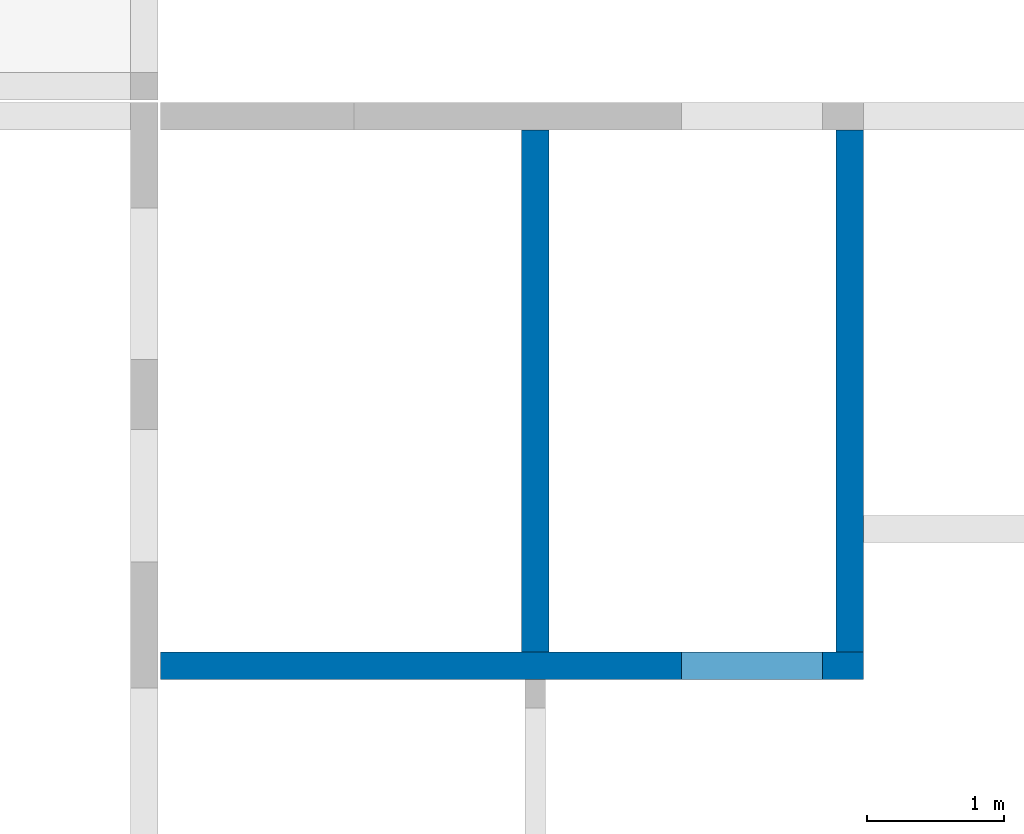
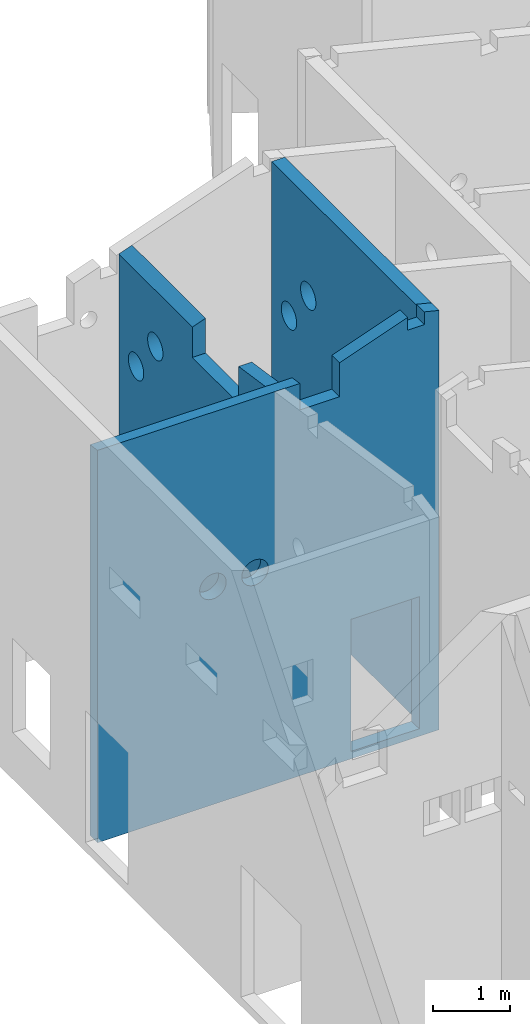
# One storey, part 8 of 13: 3 walls, 14 openings.
"""IFC2X3 building model written with IfcOpenShell, lengths in metres."""

import ifcopenshell
import ifcopenshell.guid

model = None  # the IFC model being written
_history = None  # IfcOwnerHistory: only IFC2X3 demands one
_inside = {}  # id of a spatial element -> (the spatial element, [elements in it])
_under = {}  # id of a project, library or spatial element -> (it, [spatial elements below it])
_declared = {}  # id of a project -> (the project, [libraries it declares])
_typed = {}  # id of a type object -> (the type object, [elements of that type])
_made_of = {}  # id of a material, layer set ... -> (it, [elements and type objects made of it])


def new_model(schema):
    """Start an empty IFC model of exactly this schema.

    Asked for "IFC4X3", IfcOpenShell would pick the latest addendum, in which some entities
    have other attributes; the version numbers below select the first issue.
    IFC2X3 requires an IfcOwnerHistory on every rooted entity: one is made here for all.
    """
    global model, _history
    if schema == "IFC4X3":
        model = ifcopenshell.file(schema_version=(4, 3, 0, 0))
    else:
        model = ifcopenshell.file(schema=schema)
    _inside.clear()
    _under.clear()
    _declared.clear()
    _typed.clear()
    _made_of.clear()
    _history = None
    if model.schema == "IFC2X3":
        org = make("IfcOrganization", Name="unknown")
        user = make(
            "IfcPersonAndOrganization",
            ThePerson=make("IfcPerson", FamilyName="unknown"),
            TheOrganization=org,
        )
        app = make(
            "IfcApplication",
            ApplicationDeveloper=org,
            Version="unknown",
            ApplicationFullName="unknown",
            ApplicationIdentifier="unknown",
        )
        _history = make(
            "IfcOwnerHistory",
            OwningUser=user,
            OwningApplication=app,
            ChangeAction="ADDED",
            CreationDate=0,
        )
    return model


def make(cls, **values):
    """One entity of the class cls with the attributes given. An attribute that is None is left unset."""
    return model.create_entity(
        cls, **{name: value for name, value in values.items() if value is not None}
    )


def entity(cls, *values):
    """Any entity or typed value of the class cls, its attributes in the order of the schema. None: left unset."""
    e = model.create_entity(cls)
    for i, value in enumerate(values):
        if value is not None:
            e[i] = value
    return e


def rooted(cls, **values):
    """An entity with a GlobalId (a new one), such as an element, a storey or a relation."""
    return make(cls, GlobalId=ifcopenshell.guid.new(), OwnerHistory=_history, **values)


def si_unit(unit_type, name, prefix=None):
    """IfcSIUnit, for example si_unit("LENGTHUNIT", "METRE", prefix="MILLI")."""
    return make("IfcSIUnit", UnitType=unit_type, Prefix=prefix, Name=name)


def converted_unit(unit_type, name, factor, base, dimensions=None, offset=None):
    """IfcConversionBasedUnit, such as the inch: factor (a typed value) times the base unit."""
    return make(
        "IfcConversionBasedUnit"
        if offset is None
        else "IfcConversionBasedUnitWithOffset",
        ConversionOffset=offset,
        Dimensions=None
        if dimensions is None
        else entity("IfcDimensionalExponents", *dimensions),
        UnitType=unit_type,
        Name=name,
        ConversionFactor=make(
            "IfcMeasureWithUnit", ValueComponent=factor, UnitComponent=base
        ),
    )


def assignment(units):
    """IfcUnitAssignment: the units of a project."""
    return None if units is None else make("IfcUnitAssignment", Units=units)


def point(xyz):
    """IfcCartesianPoint."""
    return None if xyz is None else make("IfcCartesianPoint", Coordinates=xyz)


def direction(xyz):
    """IfcDirection."""
    return None if xyz is None else make("IfcDirection", DirectionRatios=xyz)


def frame(location, z_axis=None, x_axis=None):
    """IfcAxis2Placement3D, a coordinate frame: its origin and axes. An axis left out is left unset."""
    return make(
        "IfcAxis2Placement3D",
        Location=point(location),
        Axis=direction(z_axis),
        RefDirection=direction(x_axis),
    )


def origin():
    """The frame at (0, 0, 0) with its axes left unset."""
    return frame((0.0, 0.0, 0.0))


def origin_with_axes():
    """The frame at (0, 0, 0) with the z axis (0, 0, 1) and the x axis (1, 0, 0) written out."""
    return frame((0.0, 0.0, 0.0), z_axis=(0.0, 0.0, 1.0), x_axis=(1.0, 0.0, 0.0))


def place(relative_to, where):
    """IfcLocalPlacement: puts the frame where relative to a parent placement (None: the world)."""
    return make(
        "IfcLocalPlacement", PlacementRelTo=relative_to, RelativePlacement=where
    )


def context(
    kind, dimensions, precision=None, world=None, true_north=None, identifier=None
):
    """IfcGeometricRepresentationContext, for example the 3D "Model" context."""
    return make(
        "IfcGeometricRepresentationContext",
        ContextIdentifier=identifier,
        ContextType=kind,
        CoordinateSpaceDimension=dimensions,
        Precision=precision,
        WorldCoordinateSystem=world,
        TrueNorth=true_north,
    )


def subcontext(parent, identifier, kind, view, scale=None):
    """IfcGeometricRepresentationSubContext, for example "Body" below "Model"."""
    return make(
        "IfcGeometricRepresentationSubContext",
        ContextIdentifier=identifier,
        ContextType=kind,
        ParentContext=parent,
        TargetScale=scale,
        TargetView=view,
    )


def project(units=None, contexts=None):
    """IfcProject with its units and contexts."""
    return rooted(
        "IfcProject",
        Name="project",
        RepresentationContexts=contexts,
        UnitsInContext=assignment(units),
    )


def spatial(cls, under=None, at=None, **own):
    """A site, building, storey or space (cls), placed at a placement, below another one or the project."""
    s = rooted(cls, ObjectPlacement=at, **own)
    if under is not None:
        _under.setdefault(under.id(), (under, []))[1].append(s)
    return s


def polyline(points):
    """IfcPolyline through the points."""
    return make("IfcPolyline", Points=[point(p) for p in points])


def outline(outer, holes=None, kind="AREA"):
    """IfcArbitraryClosedProfileDef: a profile drawn as a closed curve; with holes, ...WithVoids."""
    if holes is None:
        return make("IfcArbitraryClosedProfileDef", ProfileType=kind, OuterCurve=outer)
    return make(
        "IfcArbitraryProfileDefWithVoids",
        ProfileType=kind,
        OuterCurve=outer,
        InnerCurves=holes,
    )


def extrude(swept, where, along, depth):
    """IfcExtrudedAreaSolid: the profile swept, set in the frame where, extruded along a direction by depth."""
    return make(
        "IfcExtrudedAreaSolid",
        SweptArea=swept,
        Position=where,
        ExtrudedDirection=direction(along),
        Depth=depth,
    )


def clip(a, b, op="DIFFERENCE"):
    """IfcBooleanClippingResult: the solid a cut by the half space b."""
    return make(
        "IfcBooleanClippingResult", Operator=op, FirstOperand=a, SecondOperand=b
    )


def bounded_halfspace(plane, agree, where, boundary):
    """IfcPolygonalBoundedHalfSpace: a half space limited to a polygon's prism."""
    return make(
        "IfcPolygonalBoundedHalfSpace",
        BaseSurface=make("IfcPlane", Position=plane),
        AgreementFlag=agree,
        Position=where,
        PolygonalBoundary=boundary,
    )


def shape(context_of_items, identifier, shape_type, items):
    """IfcShapeRepresentation: the items that make up one representation, for example the "Body"."""
    return make(
        "IfcShapeRepresentation",
        ContextOfItems=context_of_items,
        RepresentationIdentifier=identifier,
        RepresentationType=shape_type,
        Items=items,
    )


def material(Name=None, Category=None):
    """IfcMaterial."""
    return make("IfcMaterial", Name=Name, Category=Category)


def layer(
    of_material, thickness, ventilated=None, Name=None, Category=None, Priority=None
):
    """IfcMaterialLayer: one layer of a wall or slab, of a material (None: an air gap)."""
    return make(
        "IfcMaterialLayer",
        Material=of_material,
        LayerThickness=thickness,
        IsVentilated=ventilated,
        Name=Name,
        Category=Category,
        Priority=Priority,
    )


def layer_set(layers, Name=None):
    """IfcMaterialLayerSet."""
    return make("IfcMaterialLayerSet", MaterialLayers=layers, LayerSetName=Name)


def layer_usage(for_layer_set, set_direction, sense, offset, extent=None):
    """IfcMaterialLayerSetUsage: how a layer set lies in its element."""
    return make(
        "IfcMaterialLayerSetUsage",
        ForLayerSet=for_layer_set,
        LayerSetDirection=set_direction,
        DirectionSense=sense,
        OffsetFromReferenceLine=offset,
        ReferenceExtent=extent,
    )


def made_of(thing, what):
    """Note that an element or type object is made of a material, layer set ...; save() writes the relation."""
    if what is not None:
        _made_of.setdefault(what.id(), (what, []))[1].append(thing)
    return thing


def element(
    cls,
    number,
    at=None,
    inside=None,
    cuts=None,
    type_object=None,
    material=None,
    context=None,
    identifier="Body",
    shape_type=None,
    held_by="IfcProductDefinitionShape",
    body=None,
    shapes=None,
    **own,
):
    """One element of the class cls, such as IfcWall. Its Tag is "e" and its number.

    at: its placement. inside: the storey or other place that contains it. cuts: it is an
    opening in that element (IfcRelVoidsElement). A single representation is given by context,
    identifier, shape_type and body (its items); several are given by shapes. held_by: the class
    of the entity that holds the representations. save() writes the other relations.
    """
    e = rooted(cls, Tag="e%d" % number, ObjectPlacement=at, **own)
    if body is not None:
        shapes = [shape(context, identifier, shape_type, body)]
    if shapes is not None:
        e.Representation = make(held_by, Representations=shapes)
    if inside is not None:
        _inside.setdefault(inside.id(), (inside, []))[1].append(e)
    if cuts is not None:
        rooted(
            "IfcRelVoidsElement", RelatingBuildingElement=cuts, RelatedOpeningElement=e
        )
    if type_object is not None:
        _typed.setdefault(type_object.id(), (type_object, []))[1].append(e)
    return made_of(e, material)


def aggregate(whole, parts):
    """IfcRelAggregates: a whole, such as a stair, and the parts it consists of."""
    return rooted("IfcRelAggregates", RelatingObject=whole, RelatedObjects=parts)


def save(model, path):
    """Write the relations noted so far, then the file.

    IfcRelAggregates (storeys below a building ...), IfcRelContainedInSpatialStructure (elements
    in a storey), IfcRelDefinesByType, IfcRelAssociatesMaterial and IfcRelDeclares: one each for
    every whole, place, type object, material and project.
    """
    for whole, parts in _under.values():
        aggregate(whole, parts)
    for where, things in _inside.values():
        rooted(
            "IfcRelContainedInSpatialStructure",
            RelatedElements=things,
            RelatingStructure=where,
        )
    for kind, things in _typed.values():
        rooted("IfcRelDefinesByType", RelatedObjects=things, RelatingType=kind)
    for what, things in _made_of.values():
        rooted("IfcRelAssociatesMaterial", RelatedObjects=things, RelatingMaterial=what)
    for by, libraries in _declared.values():
        rooted("IfcRelDeclares", RelatingContext=by, RelatedDefinitions=libraries)
    model.write(path)


model = new_model("IFC2X3")

# Units and contexts
model_context = context("Model", 3, precision=1e-05, world=origin(), true_north=direction((-0.407059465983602, -0.913401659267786)))
body_context = subcontext(model_context, "Body", "Model", "MODEL_VIEW")
ifc_project = project(units=[si_unit("LENGTHUNIT", "METRE"), si_unit("AREAUNIT", "SQUARE_METRE"), si_unit("VOLUMEUNIT", "CUBIC_METRE"), si_unit("MASSUNIT", "GRAM", prefix="KILO"), converted_unit("PLANEANGLEUNIT", "DEGREE", entity("IfcPlaneAngleMeasure", 0.0174532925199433), si_unit("PLANEANGLEUNIT", "RADIAN"), dimensions=[0, 0, 0, 0, 0, 0, 0])], contexts=[model_context])

# Site, buildings, storey
site_placement = place(None, origin())
site = spatial("IfcSite", under=ifc_project, at=site_placement, Name="Site", CompositionType="ELEMENT")
building_1_placement = place(site_placement, origin())
building_1 = spatial("IfcBuilding", under=site, at=building_1_placement, Name="Site", CompositionType="COMPLEX")
building_2_placement = place(building_1_placement, origin())
building_2 = spatial("IfcBuilding", under=building_1, at=building_2_placement, Name="Bâtiments", CompositionType="ELEMENT")
storey_placement = place(building_2_placement, frame((0.0, 0.0, -0.14)))
storey = spatial("IfcBuildingStorey", under=building_2, at=storey_placement, Name="RDC", CompositionType="ELEMENT", Elevation=-0.14)

# Wall, openings
ifc_material_1 = material(Name="Béton")
ifc_layer_1 = layer(ifc_material_1, 0.199999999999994)
ifc_layer_set_1 = layer_set([ifc_layer_1])
ifc_layer_usage_1 = layer_usage(ifc_layer_set_1, "AXIS2", "POSITIVE", -0.2)
wall_1_placement = place(storey_placement, frame((66.072946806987, -5.43902494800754, 0.1), z_axis=(0.0, 0.0, 1.0), x_axis=(-3.16006599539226e-05, -0.999999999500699, 0.0)))
wall_1 = element("IfcWallStandardCase", 1, at=wall_1_placement, inside=storey, material=ifc_layer_usage_1, context=body_context, shape_type="Clipping", body=[
    clip(clip(extrude(outline(polyline([(-3.81841958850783, -1.41579430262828e-11), (-4.48026814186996e-07, -1.41579430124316e-11), (-6.32013199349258e-06, 0.199999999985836), (-3.8184215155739, 0.199999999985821), (-3.81841958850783, -1.41579430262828e-11)])), frame((3.81841958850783, 1.41579430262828e-11, 0.0), z_axis=(0.0, 0.0, 1.0), x_axis=(1.0, 0.0, 0.0)), (0.0, 0.0, 1.0), 6.13140401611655), bounded_halfspace(frame((1.32825843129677, 0.0999999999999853, 5.95900379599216), z_axis=(-1.05745080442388e-05, 0.334629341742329, -0.942349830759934), x_axis=(0.99999999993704, -7.18324596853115e-16, -1.12214250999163e-05)), True, origin_with_axes(), polyline([(-9.09494701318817e-16, -2.87406328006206e-20), (2.4183996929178, -1.73724923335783e-15), (2.89463595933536, 0.199999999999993), (-1.92706606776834e-06, 0.199999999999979), (-9.09494701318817e-16, -2.87406328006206e-20)]))), bounded_halfspace(frame((3.23746701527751, 0.0999999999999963, 6.04489128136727), z_axis=(0.147291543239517, 6.80627856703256e-06, -0.989093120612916), x_axis=(-0.989093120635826, -1.13168345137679e-15, -0.147291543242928)), True, origin_with_axes(), polyline([(3.81841326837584, 0.199999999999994), (2.89463595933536, 0.199999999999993), (2.4183996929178, -1.73722147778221e-15), (3.81841914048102, 1.38777878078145e-20), (3.81841326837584, 0.199999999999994)]))),
])
opening_1_placement = place(wall_1_placement, frame((1.15160857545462, 0.199999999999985, 4.83), z_axis=(2.27373675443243e-14, -1.0, 0.0), x_axis=(0.0, 0.0, 1.0)))
element("IfcOpeningElement", 2, at=opening_1_placement, cuts=wall_1, Name="CVC-083", ObjectType="Opening", context=body_context, shape_type="SweptSolid", body=[
    extrude(outline(polyline([(0.200000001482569, 0.0), (0.179094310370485, 0.0010956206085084), (0.158417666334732, 0.00437047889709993), (0.138196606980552, 0.00978869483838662), (0.118652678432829, 0.0172909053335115), (0.100000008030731, 0.0267949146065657), (0.0824429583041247, 0.038196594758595), (0.0661738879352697, 0.0513710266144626), (0.0513710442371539, 0.0661738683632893), (0.038196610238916, 0.0824429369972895), (0.0267949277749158, 0.099999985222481), (0.017290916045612, 0.11865265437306), (0.00978870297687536, 0.138196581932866), (0.00437048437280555, 0.158417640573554), (0.00109562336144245, 0.179094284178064), (0.0, 0.199999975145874), (0.00109561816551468, 0.220905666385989), (0.00437047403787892, 0.241582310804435), (0.00978868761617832, 0.261803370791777), (0.0172908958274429, 0.28134730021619), (0.0267949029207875, 0.299999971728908), (0.0381965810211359, 0.31755702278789), (0.0513710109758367, 0.333826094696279), (0.0661738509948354, 0.348628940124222), (0.0824429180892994, 0.361803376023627), (0.0999999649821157, 0.373205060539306), (0.118652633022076, 0.38270907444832), (0.138196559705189, 0.390211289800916), (0.158417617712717, 0.395629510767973), (0.179094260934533, 0.398904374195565), (0.19999995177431, 0.4), (0.220905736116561, 0.398904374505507), (0.241582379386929, 0.395629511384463), (0.261803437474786, 0.390211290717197), (0.281347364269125, 0.382709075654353), (0.30000003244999, 0.373205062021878), (0.317557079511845, 0.361803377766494), (0.333826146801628, 0.348628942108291), (0.34862898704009, 0.333826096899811), (0.361803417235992, 0.317557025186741), (0.373205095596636, 0.299999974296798), (0.38270910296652, 0.281347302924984), (0.390211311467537, 0.261803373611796), (0.395629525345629, 0.241582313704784), (0.398904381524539, 0.22090566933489), (0.399999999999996, 0.199999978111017), (0.398904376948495, 0.179094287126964), (0.395629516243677, 0.158417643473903), (0.390211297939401, 0.138196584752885), (0.382709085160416, 0.118652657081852), (0.373205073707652, 0.0999999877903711), (0.361803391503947, 0.0824429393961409), (0.348628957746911, 0.0661738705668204), (0.333826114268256, 0.0513710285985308), (0.317557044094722, 0.0381965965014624), (0.299999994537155, 0.0267949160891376), (0.281347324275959, 0.0172909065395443), (0.261803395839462, 0.00978869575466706), (0.241582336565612, 0.00437047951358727), (0.22090569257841, 0.00109562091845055), (0.200000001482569, 0.0)])), origin_with_axes(), (0.0, 0.0, 1.0), 0.19999999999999),
])
opening_2_placement = place(wall_1_placement, frame((0.249861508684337, -2.83455845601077e-14, 4.21), z_axis=(1.37845290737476e-14, 1.0, 0.0), x_axis=(0.0, 0.0, 1.0)))
element("IfcOpeningElement", 3, at=opening_2_placement, cuts=wall_1, Name="CVC-080", ObjectType="Opening", context=body_context, shape_type="SweptSolid", body=[
    extrude(outline(polyline([(0.19999997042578, 0.400000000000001), (0.22090572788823, 0.398904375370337), (0.241582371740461, 0.395629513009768), (0.261803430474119, 0.390211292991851), (0.281347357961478, 0.382709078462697), (0.300000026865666, 0.373205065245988), (0.317557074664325, 0.361803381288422), (0.333826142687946, 0.348628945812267), (0.348628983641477, 0.333826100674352), (0.361803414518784, 0.317557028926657), (0.373205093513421, 0.299999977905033), (0.382709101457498, 0.281347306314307), (0.390211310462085, 0.261803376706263), (0.395629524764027, 0.241582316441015), (0.39890438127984, 0.220905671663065), (0.399999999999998, 0.199999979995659), (0.398904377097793, 0.179094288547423), (0.395629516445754, 0.15841764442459), (0.390211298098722, 0.138196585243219), (0.382709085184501, 0.118652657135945), (0.37320507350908, 0.099999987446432), (0.36180339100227, 0.0824429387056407), (0.348628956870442, 0.0661738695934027), (0.3338261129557, 0.0513710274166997), (0.31755704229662, 0.0381965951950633), (0.299999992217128, 0.0267949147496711), (0.281347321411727, 0.0172909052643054), (0.261803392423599, 0.00978869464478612), (0.241582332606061, 0.00437047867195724), (0.220905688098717, 0.00109562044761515), (0.199999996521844, 0.0), (0.179094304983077, 0.00109562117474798), (0.158417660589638, 0.00437048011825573), (0.138196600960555, 0.00978869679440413), (0.118652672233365, 0.0172909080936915), (0.100000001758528, 0.0267949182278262), (0.0824429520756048, 0.0381965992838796), (0.0661738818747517, 0.0513710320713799), (0.0513710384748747, 0.0661738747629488), (0.0381966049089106, 0.0824429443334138), (0.0267949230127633, 0.099999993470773), (0.0172909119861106, 0.118652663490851), (0.00978869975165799, 0.138196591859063), (0.00437048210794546, 0.158417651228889), (0.00109562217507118, 0.179094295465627), (0.0, 0.19999998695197), (0.00109561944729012, 0.220905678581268), (0.00437047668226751, 0.241582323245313), (0.00978869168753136, 0.261803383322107), (0.0172909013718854, 0.281347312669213), (0.0267949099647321, 0.299999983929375), (0.0381965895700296, 0.317557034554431), (0.0513710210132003, 0.333826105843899), (0.066173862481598, 0.348628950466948), (0.0824429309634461, 0.36180338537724), (0.0999999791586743, 0.373205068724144), (0.118652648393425, 0.382709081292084), (0.138196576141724, 0.39021129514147), (0.158417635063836, 0.395629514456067), (0.17909427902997, 0.398904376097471), (0.19999997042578, 0.400000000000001)])), origin_with_axes(), (0.0, 0.0, 1.0), 0.199999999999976),
])
opening_3_placement = place(wall_1_placement, frame((1.96594438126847, -3.51170481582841e-15, 3.26), z_axis=(-9.09494701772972e-15, 1.0, 0.0), x_axis=(0.0, 0.0, 1.0)))
element("IfcOpeningElement", 4, at=opening_3_placement, cuts=wall_1, Name="CVC-085", ObjectType="Opening", context=body_context, shape_type="SweptSolid", body=[
    extrude(outline(polyline([(0.124999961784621, 0.25), (0.13806609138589, 0.249315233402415), (0.150988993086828, 0.247268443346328), (0.163627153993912, 0.243882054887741), (0.175842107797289, 0.239193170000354), (0.187500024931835, 0.233253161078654), (0.198473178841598, 0.226127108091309), (0.208641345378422, 0.217893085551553), (0.217893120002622, 0.208641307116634), (0.226127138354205, 0.198473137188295), (0.23325318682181, 0.187499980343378), (0.239193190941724, 0.175842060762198), (0.243882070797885, 0.163627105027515), (0.247268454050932, 0.150988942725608), (0.249315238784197, 0.138066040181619), (0.249999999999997, 0.124999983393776), (0.249315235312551, 0.111933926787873), (0.247268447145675, 0.0990110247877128), (0.243882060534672, 0.086372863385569), (0.239193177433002, 0.0741579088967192), (0.233253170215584, 0.0624999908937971), (0.226127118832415, 0.0515268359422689), (0.217893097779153, 0.0413586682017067), (0.20864132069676, 0.0321068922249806), (0.198473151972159, 0.0238728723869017), (0.187499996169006, 0.0167468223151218), (0.175842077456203, 0.0108068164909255), (0.163627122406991, 0.00611793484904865), (0.150988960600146, 0.00273154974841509), (0.138066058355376, 0.000684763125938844), (0.125000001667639, 0.0), (0.111933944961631, 0.000684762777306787), (0.0990110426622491, 0.00273154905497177), (0.0863728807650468, 0.00611793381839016), (0.074157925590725, 0.0108068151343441), (0.0625000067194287, 0.0167468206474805), (0.0515268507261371, 0.0238728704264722), (0.0413586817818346, 0.0321068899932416), (0.032106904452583, 0.041358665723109), (0.0238728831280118, 0.05152683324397), (0.0167468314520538, 0.0624999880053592), (0.0108068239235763, 0.0741579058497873), (0.00611794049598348, 0.086372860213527), (0.00273155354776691, 0.0990110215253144), (0.000684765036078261, 0.111933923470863), (0.0, 0.124999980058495), (0.000684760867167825, 0.138066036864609), (0.00273154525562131, 0.15098893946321), (0.00611792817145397, 0.163627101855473), (0.0108068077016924, 0.175842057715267), (0.0167468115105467, 0.187499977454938), (0.023872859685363, 0.198473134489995), (0.0321068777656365, 0.208641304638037), (0.0413586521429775, 0.217893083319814), (0.0515268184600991, 0.22612710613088), (0.0624999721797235, 0.233253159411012), (0.074157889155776, 0.239193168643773), (0.0863728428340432, 0.243882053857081), (0.0990110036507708, 0.247268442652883), (0.111933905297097, 0.249315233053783), (0.124999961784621, 0.25)])), origin_with_axes(), (0.0, 0.0, 1.0), 0.19999999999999),
])
opening_4_placement = place(wall_1_placement, frame((3.11684571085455, 0.199999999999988, 5.44), z_axis=(-4.54747350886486e-15, -1.0, 0.0), x_axis=(0.0, 0.0, 1.0)))
element("IfcOpeningElement", 5, at=opening_4_placement, cuts=wall_1, Name="Percement dans mur", ObjectType="Opening", context=body_context, shape_type="SweptSolid", body=[
    extrude(outline(polyline([(0.0, 1.2), (0.59, 1.2), (0.59, 0.0), (0.0, 0.0), (0.0, 1.2)])), origin_with_axes(), (0.0, 0.0, 1.0), 0.19999999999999),
])

ifc_material_2 = material(Name="Béton")
ifc_layer_2 = layer(ifc_material_2, 0.200000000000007)
ifc_layer_set_2 = layer_set([ifc_layer_2])
ifc_layer_usage_2 = layer_usage(ifc_layer_set_2, "AXIS2", "POSITIVE", -0.2)
wall_2_placement = place(storey_placement, frame((68.5730418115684, -9.25744968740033, 0.02), z_axis=(0.0, 0.0, 1.0), x_axis=(-0.999999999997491, 2.24013407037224e-06, 0.0)))
wall_2 = element("IfcWallStandardCase", 6, at=wall_2_placement, inside=storey, material=ifc_layer_usage_2, context=body_context, shape_type="Clipping", body=[
    clip(clip(clip(extrude(outline(polyline([(-5.13964894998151, -0.200011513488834), (2.57950603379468e-11, -0.200011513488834), (2.57917585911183e-11, -1.15134888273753e-05), (-5.13964274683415, -1.15134888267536e-05), (-5.13964894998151, -0.200011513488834)])), frame((5.13964894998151, 0.200011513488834, 0.0), z_axis=(0.0, 0.0, 1.0), x_axis=(1.0, 0.0, 0.0)), (0.0, 0.0, 1.0), 6.75977521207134), bounded_halfspace(frame((1.12032542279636, 0.100000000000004, 6.49346604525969), z_axis=(-0.334629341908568, -7.49614590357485e-07, -0.942349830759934), x_axis=(-0.942349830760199, -1.67578268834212e-16, 0.334629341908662)), True, origin_with_axes(), polyline([(1.82828627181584, 0.200000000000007), (0.370371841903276, 0.200000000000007), (0.37037228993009, -4.40393273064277e-16), (1.91227128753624, -2.82044353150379e-16), (1.82828627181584, 0.200000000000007)]))), bounded_halfspace(frame((3.50496386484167, 0.100000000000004, 6.22629256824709), z_axis=(-2.48172139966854e-06, 0.147291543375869, -0.989093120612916), x_axis=(-0.999999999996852, 7.87931223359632e-17, 2.5090877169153e-06)), True, origin_with_axes(), polyline([(5.13964895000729, 0.200000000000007), (1.82828627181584, 0.200000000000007), (1.91227128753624, -2.82044353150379e-16), (5.1396489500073, -1.73472347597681e-20), (5.13964895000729, 0.200000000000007)]))), bounded_halfspace(frame((0.185187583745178, 0.100000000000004, 6.71428954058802), z_axis=(0.23853345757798, 5.34346924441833e-07, -0.971134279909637), x_axis=(0.971134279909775, -1.1546473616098e-15, 0.238533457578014)), True, origin_with_axes(), polyline([(-1.45519152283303e-14, -3.25982410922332e-20), (0.37037228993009, -4.40393273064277e-16), (0.370371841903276, 0.200000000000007), (6.20314734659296e-06, 0.200000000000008), (-1.45519152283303e-14, -3.25982410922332e-20)]))),
])
opening_5_placement = place(wall_2_placement, frame((2.57053434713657, 9.20246517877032e-16, 3.27000000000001), z_axis=(1.6575540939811e-12, 1.0, 0.0), x_axis=(0.0, 0.0, 1.0)))
element("IfcOpeningElement", 7, at=opening_5_placement, cuts=wall_2, Name="CVC-093", ObjectType="Opening", context=body_context, shape_type="SweptSolid", body=[
    extrude(outline(polyline([(0.199999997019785, 0.400000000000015), (0.220905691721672, 0.39890437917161), (0.241582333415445, 0.395629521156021), (0.261803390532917, 0.390211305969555), (0.281347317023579, 0.382709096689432), (0.299999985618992, 0.373205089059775), (0.317557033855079, 0.361803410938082), (0.333826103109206, 0.348628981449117), (0.348628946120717, 0.333826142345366), (0.361803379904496, 0.317557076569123), (0.373205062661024, 0.300000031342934), (0.38270907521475, 0.281347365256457), (0.390211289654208, 0.261803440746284), (0.395629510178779, 0.241582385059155), (0.398904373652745, 0.220905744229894), (0.399999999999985, 0.200000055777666), (0.39890438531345, 0.1790943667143), (0.395629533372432, 0.158417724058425), (0.390211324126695, 0.138196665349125), (0.382709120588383, 0.118652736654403), (0.37320511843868, 0.10000006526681), (0.361803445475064, 0.0824430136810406), (0.348629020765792, 0.0661739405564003), (0.333826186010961, 0.0513710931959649), (0.317557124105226, 0.0381966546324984), (0.300000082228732, 0.0267949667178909), (0.281347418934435, 0.0172909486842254), (0.261803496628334, 0.00978872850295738), (0.241582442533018, 0.00437050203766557), (0.220905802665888, 0.00109563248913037), (0.199999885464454, 0.0), (0.179094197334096, 0.00109563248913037), (0.158417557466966, 0.00437050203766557), (0.138196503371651, 0.00978872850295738), (0.11865258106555, 0.0172909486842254), (0.099999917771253, 0.0267949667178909), (0.0824428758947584, 0.0381966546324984), (0.0661738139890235, 0.0513710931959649), (0.0513709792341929, 0.0661739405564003), (0.0381965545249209, 0.0824430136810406), (0.0267948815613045, 0.10000006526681), (0.0172908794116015, 0.118652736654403), (0.00978867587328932, 0.138196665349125), (0.0043704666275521, 0.158417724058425), (0.00109561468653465, 0.1790943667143), (0.0, 0.200000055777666), (0.00109562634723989, 0.220905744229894), (0.00437048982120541, 0.241582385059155), (0.00978871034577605, 0.261803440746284), (0.0172909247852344, 0.281347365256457), (0.0267949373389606, 0.300000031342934), (0.0381966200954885, 0.317557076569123), (0.0513710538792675, 0.333826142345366), (0.0661738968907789, 0.348628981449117), (0.0824429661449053, 0.361803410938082), (0.100000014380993, 0.373205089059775), (0.118652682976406, 0.382709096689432), (0.138196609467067, 0.390211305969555), (0.158417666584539, 0.395629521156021), (0.179094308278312, 0.39890437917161), (0.199999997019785, 0.400000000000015)])), origin_with_axes(), (0.0, 0.0, 1.0), 0.200000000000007),
])
opening_6_placement = place(wall_2_placement, frame((3.20363330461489, -3.81174258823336e-16, 3.27000000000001), z_axis=(1.65528035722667e-12, 1.0, 0.0), x_axis=(0.0, 0.0, 1.0)))
element("IfcOpeningElement", 8, at=opening_6_placement, cuts=wall_2, Name="CVC-084", ObjectType="Opening", context=body_context, shape_type="SweptSolid", body=[
    extrude(outline(polyline([(0.19999999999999, 0.399999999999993), (0.220905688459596, 0.398904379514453), (0.241582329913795, 0.395629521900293), (0.26180338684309, 0.390211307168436), (0.281347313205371, 0.382709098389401), (0.299999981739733, 0.373205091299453), (0.317557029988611, 0.36180341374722), (0.333826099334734, 0.348628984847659), (0.348628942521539, 0.333826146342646), (0.361803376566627, 0.317557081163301), (0.373205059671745, 0.300000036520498), (0.382709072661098, 0.281347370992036), (0.390211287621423, 0.261803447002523), (0.395629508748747, 0.241582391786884), (0.398904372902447, 0.220905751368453), (0.39999999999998, 0.200000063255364), (0.398904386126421, 0.179094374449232), (0.395629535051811, 0.158417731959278), (0.390211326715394, 0.138196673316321), (0.382709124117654, 0.118652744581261), (0.373205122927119, 0.10000007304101), (0.36180345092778, 0.0824430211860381), (0.348629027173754, 0.0661739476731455), (0.333826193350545, 0.0513710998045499), (0.31755713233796, 0.0381966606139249), (0.30000009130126, 0.0267949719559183), (0.281347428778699, 0.0172909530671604), (0.261803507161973, 0.00978873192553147), (0.241582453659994, 0.00437050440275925), (0.220905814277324, 0.00109563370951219), (0.199999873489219, 0.0), (0.179094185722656, 0.00109563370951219), (0.158417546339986, 0.00437050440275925), (0.138196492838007, 0.00978873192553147), (0.118652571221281, 0.0172909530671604), (0.09999990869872, 0.0267949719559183), (0.08244286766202, 0.0381966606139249), (0.0661738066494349, 0.0513710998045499), (0.0513709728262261, 0.0661739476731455), (0.0381965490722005, 0.0824430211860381), (0.0267948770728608, 0.10000007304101), (0.017290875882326, 0.118652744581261), (0.00978867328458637, 0.138196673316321), (0.00437046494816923, 0.158417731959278), (0.00109561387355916, 0.179094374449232), (0.0, 0.200000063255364), (0.001095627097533, 0.220905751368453), (0.00437049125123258, 0.241582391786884), (0.00978871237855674, 0.261803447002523), (0.0172909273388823, 0.281347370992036), (0.0267949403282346, 0.300000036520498), (0.0381966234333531, 0.317557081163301), (0.0513710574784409, 0.333826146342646), (0.0661739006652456, 0.348628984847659), (0.0824429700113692, 0.36180341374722), (0.100000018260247, 0.373205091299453), (0.118652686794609, 0.382709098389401), (0.13819661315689, 0.390211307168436), (0.158417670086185, 0.395629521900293), (0.179094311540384, 0.398904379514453), (0.19999999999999, 0.399999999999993)])), origin_with_axes(), (0.0, 0.0, 1.0), 0.200000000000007),
])
opening_7_placement = place(wall_2_placement, frame((2.09734000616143, 0.200000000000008, 5.82), z_axis=(-1.6575540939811e-12, -1.0, 0.0), x_axis=(0.0, 0.0, 1.0)))
element("IfcOpeningElement", 9, at=opening_7_placement, cuts=wall_2, Name="Percement dans mur", ObjectType="Opening", context=body_context, shape_type="SweptSolid", body=[
    extrude(outline(polyline([(0.0, 0.600000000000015), (0.54, 0.600000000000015), (0.54, 0.0), (0.0, 0.0), (0.0, 0.600000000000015)])), origin_with_axes(), (0.0, 0.0, 1.0), 0.200000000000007),
])
opening_8_placement = place(wall_2_placement, frame((0.473957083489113, 0.200000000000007, 6.52), z_axis=(-1.6569856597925e-12, -1.0, 0.0), x_axis=(0.0, 0.0, 1.0)))
element("IfcOpeningElement", 10, at=opening_8_placement, cuts=wall_2, Name="Percement dans mur", ObjectType="Opening", context=body_context, shape_type="SweptSolid", body=[
    extrude(outline(polyline([(0.0, 0.249999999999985), (0.24, 0.249999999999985), (0.24, 0.0), (0.0, 0.0), (0.0, 0.249999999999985)])), origin_with_axes(), (0.0, 0.0, 1.0), 0.200000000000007),
])
opening_9_placement = place(wall_2_placement, frame((0.300000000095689, 1.52897497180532e-15, 0.12), z_axis=(1.00755528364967e-10, 1.0, 0.0), x_axis=(0.0, 0.0, 1.0)))
element("IfcOpeningElement", 11, at=opening_9_placement, cuts=wall_2, Name="Baie de porte", ObjectType="Opening", context=body_context, shape_type="SweptSolid", body=[
    extrude(outline(polyline([(0.0, 1.03), (2.1, 1.03), (2.1, 0.0), (0.0, 0.0), (0.0, 1.03)])), origin_with_axes(), (0.0, 0.0, 1.0), 0.200000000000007),
])

ifc_material_3 = material(Name="Béton")
ifc_layer_3 = layer(ifc_material_3, 0.200000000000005)
ifc_layer_set_3 = layer_set([ifc_layer_3])
ifc_layer_usage_3 = layer_usage(ifc_layer_set_3, "AXIS2", "POSITIVE", -0.199999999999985)
wall_3_placement = place(storey_placement, frame((68.3731687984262, -5.438966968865, 0.1), z_axis=(0.0, 0.0, 1.0), x_axis=(-3.32558708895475e-05, -0.999999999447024, 0.0)))
wall_3 = element("IfcWallStandardCase", 12, at=wall_3_placement, inside=storey, material=ifc_layer_usage_3, context=body_context, shape_type="SweptSolid", body=[
    extrude(outline(polyline([(-3.81848272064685, -2.59086181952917e-11), (-7.79069002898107e-07, -2.59086181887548e-11), (-6.65117418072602e-06, 0.199999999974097), (-3.81848937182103, 0.199999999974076), (-3.81848272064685, -2.59086181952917e-11)])), frame((3.81848272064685, 2.59086181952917e-11, 0.0), z_axis=(0.0, 0.0, 1.0), x_axis=(1.0, 0.0, 0.0)), (0.0, 0.0, 1.0), 6.58877186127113),
])
opening_10_placement = place(wall_3_placement, frame((1.62196955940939, 0.199999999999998, 3.64), z_axis=(-3.18323145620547e-14, -1.0, 0.0), x_axis=(0.0, 0.0, 1.0)))
element("IfcOpeningElement", 13, at=opening_10_placement, cuts=wall_3, Name="EL-006", ObjectType="Opening", context=body_context, shape_type="SweptSolid", body=[
    extrude(outline(polyline([(0.0, 0.250000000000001), (0.07, 0.250000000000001), (0.07, 0.0), (0.0, 0.0), (0.0, 0.250000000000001)])), origin_with_axes(), (0.0, 0.0, 1.0), 0.199999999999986),
])
opening_11_placement = place(wall_3_placement, frame((0.751666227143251, 1.07126356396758e-14, 4.83), z_axis=(-1.36424205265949e-14, 1.0, 0.0), x_axis=(0.0, 0.0, 1.0)))
element("IfcOpeningElement", 14, at=opening_11_placement, cuts=wall_3, Name="CVC-082", ObjectType="Opening", context=body_context, shape_type="SweptSolid", body=[
    extrude(outline(polyline([(0.199999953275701, 0.400000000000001), (0.220905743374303, 0.398904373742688), (0.24158238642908, 0.395629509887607), (0.261803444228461, 0.390211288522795), (0.281347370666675, 0.382709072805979), (0.300000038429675, 0.373205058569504), (0.317557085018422, 0.361803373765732), (0.333826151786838, 0.348628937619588), (0.348628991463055, 0.333826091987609), (0.361803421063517, 0.317557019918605), (0.373205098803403, 0.299999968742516), (0.38270910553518, 0.281347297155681), (0.39021131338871, 0.261803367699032), (0.3956295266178, 0.241582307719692), (0.398904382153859, 0.22090566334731), (0.399999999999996, 0.199999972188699), (0.398904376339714, 0.179094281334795), (0.395629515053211, 0.158417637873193), (0.39021129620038, 0.138196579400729), (0.382709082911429, 0.118652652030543), (0.373205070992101, 0.0999999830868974), (0.361803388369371, 0.0824429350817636), (0.348628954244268, 0.0661738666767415), (0.333826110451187, 0.0513710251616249), (0.317557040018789, 0.0381965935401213), (0.299999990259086, 0.0267949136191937), (0.281347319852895, 0.0172909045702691), (0.261803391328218, 0.00978869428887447), (0.241582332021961, 0.00437047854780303), (0.220905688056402, 0.00109562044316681), (0.199999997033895, 0.0), (0.179094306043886, 0.0010956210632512), (0.158417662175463, 0.00437047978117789), (0.138196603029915, 0.00978869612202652), (0.11865267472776, 0.0172909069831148), (0.100000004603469, 0.026794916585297), (0.0824429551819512, 0.0381965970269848), (0.0661738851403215, 0.0513710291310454), (0.0513710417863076, 0.0661738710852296), (0.0381966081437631, 0.0824429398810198), (0.0267949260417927, 0.0999999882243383), (0.017290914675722, 0.118652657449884), (0.00978870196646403, 0.138196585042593), (0.00437048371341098, 0.158417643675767), (0.00109562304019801, 0.179094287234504), (0.0, 0.199999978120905), (0.00109561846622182, 0.22090566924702), (0.00437047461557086, 0.241582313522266), (0.00978868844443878, 0.261803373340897), (0.0172908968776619, 0.281347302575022), (0.0267949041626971, 0.299999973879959), (0.0381965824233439, 0.317557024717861), (0.0513710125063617, 0.333826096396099), (0.0661738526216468, 0.348628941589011), (0.0824429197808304, 0.361803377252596), (0.0999999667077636, 0.373205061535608), (0.118652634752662, 0.382709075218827), (0.138196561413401, 0.390211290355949), (0.158417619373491, 0.395629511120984), (0.179094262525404, 0.398904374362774), (0.199999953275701, 0.400000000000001)])), origin_with_axes(), (0.0, 0.0, 1.0), 0.199999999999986),
])
opening_12_placement = place(wall_3_placement, frame((2.06350102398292, 0.200000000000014, 3.64), z_axis=(4.54747350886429e-15, -1.0, 0.0), x_axis=(0.0, 0.0, 1.0)))
element("IfcOpeningElement", 15, at=opening_12_placement, cuts=wall_3, Name="EL-009", ObjectType="Opening", context=body_context, shape_type="SweptSolid", body=[
    extrude(outline(polyline([(0.0, 0.349999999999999), (0.07, 0.349999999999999), (0.07, 0.0), (0.0, 0.0), (0.0, 0.349999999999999)])), origin_with_axes(), (0.0, 0.0, 1.0), 0.200000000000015),
])
opening_13_placement = place(wall_3_placement, frame((2.19100196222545, 0.2, 3.26), z_axis=(1.13686837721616e-14, -1.0, 0.0), x_axis=(0.0, 0.0, 1.0)))
element("IfcOpeningElement", 16, at=opening_13_placement, cuts=wall_3, Name="CVC-086", ObjectType="Opening", context=body_context, shape_type="SweptSolid", body=[
    extrude(outline(polyline([(0.100000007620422, 0.0), (0.0895471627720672, 0.000547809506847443), (0.0792088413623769, 0.00218523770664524), (0.0690983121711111, 0.00489434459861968), (0.0593263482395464, 0.00864544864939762), (0.0500000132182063, 0.0133974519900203), (0.0412214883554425, 0.0190982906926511), (0.0330869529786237, 0.0256855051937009), (0.0256855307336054, 0.0330869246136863), (0.0190983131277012, 0.0412214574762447), (0.0133974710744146, 0.0499999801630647), (0.00864546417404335, 0.0593263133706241), (0.00489435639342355, 0.0690982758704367), (0.00218524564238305, 0.0792088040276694), (0.000547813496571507, 0.0895471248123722), (0.0, 0.0999999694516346), (0.000547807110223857, 0.110452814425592), (0.00218523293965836, 0.120791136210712), (0.00489433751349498, 0.13090166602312), (0.00864543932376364, 0.140673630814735), (0.0133974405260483, 0.149999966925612), (0.0190982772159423, 0.158778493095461), (0.0256854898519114, 0.166913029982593), (0.033086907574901, 0.174314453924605), (0.0412214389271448, 0.18090167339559), (0.0499999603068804, 0.186602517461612), (0.0593262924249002, 0.191354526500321), (0.0690982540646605, 0.19510563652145), (0.0792087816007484, 0.197814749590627), (0.0895471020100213, 0.199452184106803), (0.0999999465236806, 0.199999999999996), (0.110452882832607, 0.199452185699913), (0.120791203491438, 0.197814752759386), (0.130901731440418, 0.195105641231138), (0.140673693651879, 0.19135453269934), (0.150000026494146, 0.186602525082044), (0.158778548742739, 0.180901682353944), (0.166913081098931, 0.174314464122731), (0.174314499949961, 0.166913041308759), (0.180901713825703, 0.158778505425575), (0.186602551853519, 0.149999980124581), (0.191354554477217, 0.14067364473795), (0.195105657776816, 0.130901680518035), (0.197814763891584, 0.120791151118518), (0.199452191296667, 0.110452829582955), (0.199999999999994, 0.0999999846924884), (0.199452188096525, 0.0895471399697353), (0.197814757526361, 0.0792088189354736), (0.195105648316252, 0.0690982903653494), (0.191354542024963, 0.0593263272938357), (0.186602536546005, 0.0499999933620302), (0.18090169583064, 0.0412214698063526), (0.174314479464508, 0.0330869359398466), (0.16691305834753, 0.0256855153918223), (0.158778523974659, 0.0190982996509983), (0.149999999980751, 0.0133974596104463), (0.140673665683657, 0.00864545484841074), (0.130901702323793, 0.00489434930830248), (0.120791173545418, 0.00218524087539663), (0.110452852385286, 0.000547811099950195), (0.100000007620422, 0.0)])), origin_with_axes(), (0.0, 0.0, 1.0), 0.200000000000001),
])
opening_14_placement = place(wall_3_placement, frame((0.249919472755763, 6.89410681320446e-15, 4.21), z_axis=(-1.36424205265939e-14, 1.0, 0.0), x_axis=(0.0, 0.0, 1.0)))
element("IfcOpeningElement", 17, at=opening_14_placement, cuts=wall_3, Name="CVC-079", ObjectType="Opening", context=body_context, shape_type="SweptSolid", body=[
    extrude(outline(polyline([(0.199999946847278, 0.4), (0.22090573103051, 0.398904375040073), (0.241582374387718, 0.39562951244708), (0.26180343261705, 0.390211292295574), (0.28134735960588, 0.382709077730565), (0.300000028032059, 0.373205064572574), (0.317557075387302, 0.361803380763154), (0.333826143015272, 0.348628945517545), (0.34862898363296, 0.333826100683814), (0.361803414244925, 0.317557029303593), (0.373205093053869, 0.299999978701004), (0.382709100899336, 0.281347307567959), (0.390211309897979, 0.261803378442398), (0.395629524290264, 0.241582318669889), (0.398904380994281, 0.220905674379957), (0.399999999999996, 0.199999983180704), (0.39890437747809, 0.179094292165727), (0.395629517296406, 0.158417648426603), (0.39021129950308, 0.138196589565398), (0.382709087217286, 0.118652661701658), (0.37320507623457, 0.0999999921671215), (0.361803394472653, 0.0824429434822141), (0.348628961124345, 0.0661738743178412), (0.33382611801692, 0.0513710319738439), (0.317557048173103, 0.0381965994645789), (0.299999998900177, 0.0267949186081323), (0.281347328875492, 0.017290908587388), (0.261803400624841, 0.00978869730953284), (0.241582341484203, 0.00437048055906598), (0.220905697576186, 0.0010956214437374), (0.200000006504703, 0.0), (0.179094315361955, 0.00109562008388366), (0.158417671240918, 0.00437047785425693), (0.138196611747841, 0.00978869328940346), (0.118652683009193, 0.0172909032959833), (0.100000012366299, 0.0267949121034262), (0.0824429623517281, 0.0381965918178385), (0.0661738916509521, 0.0513710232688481), (0.0513710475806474, 0.0661738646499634), (0.0381966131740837, 0.0824429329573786), (0.0267949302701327, 0.0999999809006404), (0.0172909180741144, 0.118652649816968), (0.00978870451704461, 0.138196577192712), (0.00437048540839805, 0.158417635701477), (0.00109562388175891, 0.179094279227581), (0.0, 0.19999997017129), (0.00109561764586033, 0.220905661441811), (0.00437047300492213, 0.241582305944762), (0.00978868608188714, 0.26180336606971), (0.0172908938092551, 0.281347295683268), (0.0267949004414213, 0.299999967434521), (0.0381965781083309, 0.317557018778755), (0.0513710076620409, 0.333826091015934), (0.0661738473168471, 0.348628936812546), (0.0824429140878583, 0.361803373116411), (0.0999999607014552, 0.373205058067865), (0.118652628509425, 0.382709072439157), (0.138196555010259, 0.390211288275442), (0.15841761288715, 0.395629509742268), (0.179094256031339, 0.398904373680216), (0.199999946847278, 0.4)])), origin_with_axes(), (0.0, 0.0, 1.0), 0.200000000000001),
])

save(model, "model.ifc")
